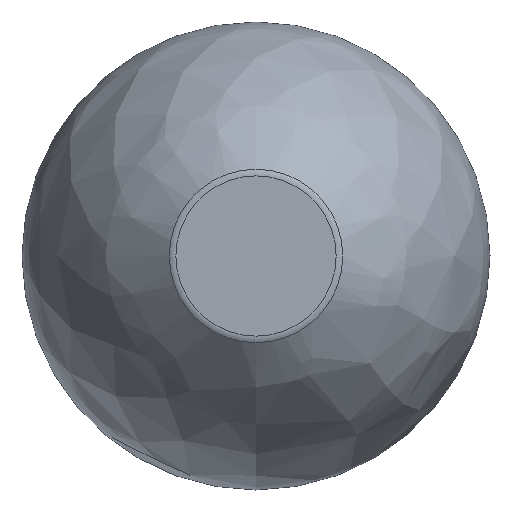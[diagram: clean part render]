
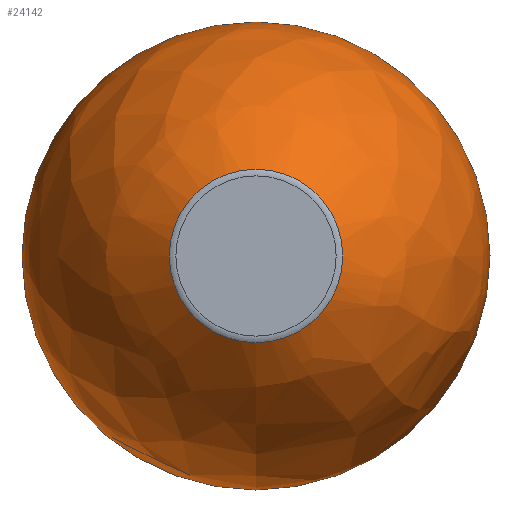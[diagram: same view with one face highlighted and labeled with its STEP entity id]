
A CAD part, front view. The second image highlights one B-rep face of the part: STEP entity #24142.
In plain terms, the highlighted free-form (B-spline) face has degree [2, 2] with [3, 9] control points.
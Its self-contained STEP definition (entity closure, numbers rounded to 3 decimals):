
#31=(
BOUNDED_SURFACE()
B_SPLINE_SURFACE(2,2,((#48230,#48231,#48232,#48233,#48234,#48235,#48236,
#48237,#48238),(#48239,#48240,#48241,#48242,#48243,#48244,#48245,#48246,
#48247),(#48248,#48249,#48250,#48251,#48252,#48253,#48254,#48255,#48256)),
 .UNSPECIFIED.,.F.,.T.,.F.)
B_SPLINE_SURFACE_WITH_KNOTS((3,3),(3,2,2,2,3),(-0.967,0.042),
(-3.142,-1.571,0.,1.571,3.142),
 .UNSPECIFIED.)
GEOMETRIC_REPRESENTATION_ITEM()
RATIONAL_B_SPLINE_SURFACE(((1.,0.707,1.,0.707,1.,
0.707,1.,0.707,1.),(0.875,0.619,
0.875,0.619,0.875,0.619,
0.875,0.619,0.875),(1.,0.707,
1.,0.707,1.,0.707,1.,0.707,1.)))
REPRESENTATION_ITEM('')
SURFACE()
);
#2502=FACE_OUTER_BOUND('',#4010,.T.);
#4010=EDGE_LOOP('',(#20203,#20204,#20205,#20206));
#9630=CIRCLE('',#25952,15.018);
#9633=CIRCLE('',#25956,40.533);
#9634=CIRCLE('',#25957,59.129);
#11555=VERTEX_POINT('',#48224);
#11557=VERTEX_POINT('',#48257);
#14623=EDGE_CURVE('',#11555,#11555,#9630,.T.);
#14626=EDGE_CURVE('',#11557,#11557,#9633,.T.);
#14627=EDGE_CURVE('',#11557,#11555,#9634,.T.);
#20203=ORIENTED_EDGE('',*,*,#14626,.F.);
#20204=ORIENTED_EDGE('',*,*,#14627,.T.);
#20205=ORIENTED_EDGE('',*,*,#14623,.F.);
#20206=ORIENTED_EDGE('',*,*,#14627,.F.);
#24142=ADVANCED_FACE('',(#2502),#31,.F.);
#25952=AXIS2_PLACEMENT_3D('',#48225,#30002,#30003);
#25956=AXIS2_PLACEMENT_3D('',#48258,#30010,#30011);
#25957=AXIS2_PLACEMENT_3D('',#48259,#30012,#30013);
#30002=DIRECTION('center_axis',(0.,-1.,0.));
#30003=DIRECTION('ref_axis',(1.,0.,0.));
#30010=DIRECTION('center_axis',(0.,1.,0.));
#30011=DIRECTION('ref_axis',(-1.,0.,0.));
#30012=DIRECTION('center_axis',(-1.,0.,0.));
#30013=DIRECTION('ref_axis',(0.,0.,-1.));
#48224=CARTESIAN_POINT('',(0.,-54.647,-15.018));
#48225=CARTESIAN_POINT('Origin',(0.,-54.647,0.));
#48230=CARTESIAN_POINT('Ctrl Pts',(0.,-54.647,-15.018));
#48231=CARTESIAN_POINT('Ctrl Pts',(-15.018,-54.647,
-15.018));
#48232=CARTESIAN_POINT('Ctrl Pts',(-15.018,-54.647,
0.));
#48233=CARTESIAN_POINT('Ctrl Pts',(-15.018,-54.647,
15.018));
#48234=CARTESIAN_POINT('Ctrl Pts',(0.,-54.647,15.018));
#48235=CARTESIAN_POINT('Ctrl Pts',(15.018,-54.647,15.018));
#48236=CARTESIAN_POINT('Ctrl Pts',(15.018,-54.647,0.));
#48237=CARTESIAN_POINT('Ctrl Pts',(15.018,-54.647,-15.018));
#48238=CARTESIAN_POINT('Ctrl Pts',(0.,-54.647,-15.018));
#48239=CARTESIAN_POINT('Ctrl Pts',(0.,-36.113,-41.899));
#48240=CARTESIAN_POINT('Ctrl Pts',(-41.899,-36.113,
-41.899));
#48241=CARTESIAN_POINT('Ctrl Pts',(-41.899,-36.113,
0.));
#48242=CARTESIAN_POINT('Ctrl Pts',(-41.899,-36.113,
41.899));
#48243=CARTESIAN_POINT('Ctrl Pts',(0.,-36.113,41.899));
#48244=CARTESIAN_POINT('Ctrl Pts',(41.899,-36.113,41.899));
#48245=CARTESIAN_POINT('Ctrl Pts',(41.899,-36.113,0.));
#48246=CARTESIAN_POINT('Ctrl Pts',(41.899,-36.113,-41.899));
#48247=CARTESIAN_POINT('Ctrl Pts',(0.,-36.113,-41.899));
#48248=CARTESIAN_POINT('Ctrl Pts',(0.,-3.491,-40.533));
#48249=CARTESIAN_POINT('Ctrl Pts',(-40.533,-3.491,
-40.533));
#48250=CARTESIAN_POINT('Ctrl Pts',(-40.533,-3.491,
0.));
#48251=CARTESIAN_POINT('Ctrl Pts',(-40.533,-3.491,
40.533));
#48252=CARTESIAN_POINT('Ctrl Pts',(0.,-3.491,40.533));
#48253=CARTESIAN_POINT('Ctrl Pts',(40.533,-3.491,40.533));
#48254=CARTESIAN_POINT('Ctrl Pts',(40.533,-3.491,0.));
#48255=CARTESIAN_POINT('Ctrl Pts',(40.533,-3.491,-40.533));
#48256=CARTESIAN_POINT('Ctrl Pts',(0.,-3.491,-40.533));
#48257=CARTESIAN_POINT('',(0.,-3.491,-40.533));
#48258=CARTESIAN_POINT('Origin',(0.,-3.491,0.));
#48259=CARTESIAN_POINT('Origin',(0.,-5.966,
18.545));
